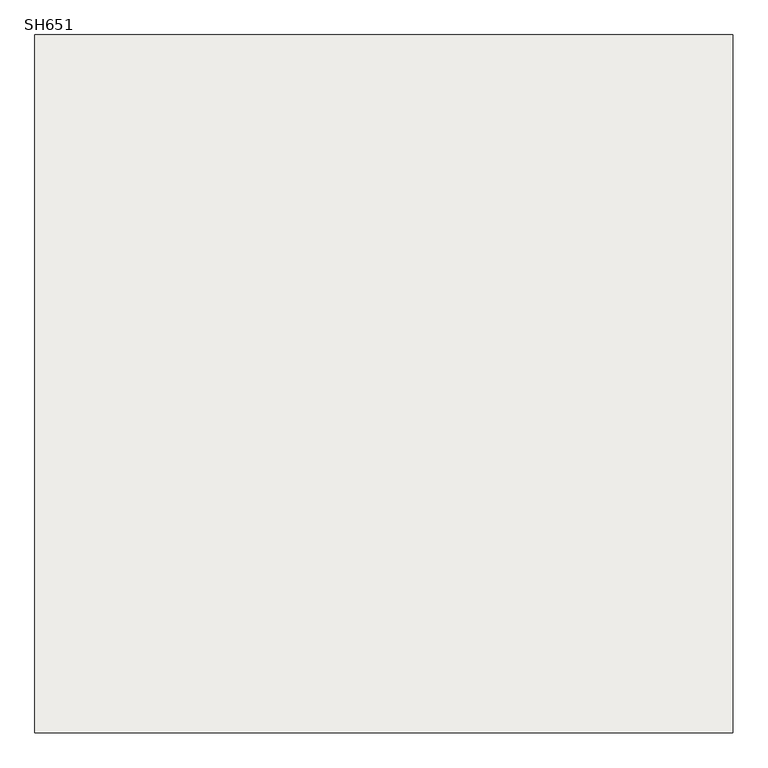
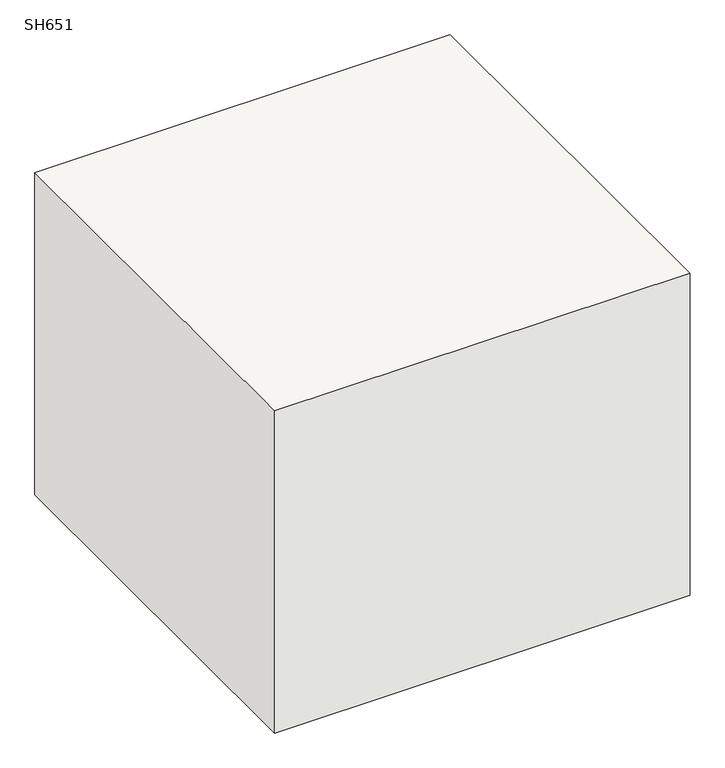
"""IFC4 building model written with IfcOpenShell, lengths in millimetres: slab geometry, 柱形_SH : SH651."""

from ifc_helpers import new_model, si_unit, frame, origin, place, context, project, spatial, polyline, outline, extrude, source, transform, mapped, element, save


def sh651_6f82ec02(model_context):
    return source(origin(), model_context, "Body", "SweptSolid", [
        extrude(outline(polyline([(610.0, 610.0), (610.0, -610.0), (-610.0, -610.0), (-610.0, 610.0), (610.0, 610.0)])), frame((0.0, 0.0, -1000.0), z_axis=(0.0, 0.0, 1.0), x_axis=(1.0, 0.0, 0.0)), (0.0, 0.0, 1.0), 1000.0),
    ])


if __name__ == "__main__":
    model = new_model("IFC4")
    model_context = context("Model", 3, world=origin())
    ifc_project = project(units=[si_unit("LENGTHUNIT", "METRE", prefix="MILLI")], contexts=[model_context])
    site = spatial("IfcSite", under=ifc_project)
    building = spatial("IfcBuilding", under=site)
    placement = place(None, origin())
    sh651_shape = sh651_6f82ec02(model_context)
    element("IfcSlab", 1, ObjectType="柱形_SH : SH651", at=placement, inside=building, context=model_context, shape_type="MappedRepresentation", body=[
        mapped(sh651_shape, transform((0.0, 0.0, 0.0), x_axis=(1.0, 0.0, 0.0), y_axis=(0.0, 1.0, 0.0), z_axis=(0.0, 0.0, 1.0))),
    ])
    save(model, "model.ifc")
